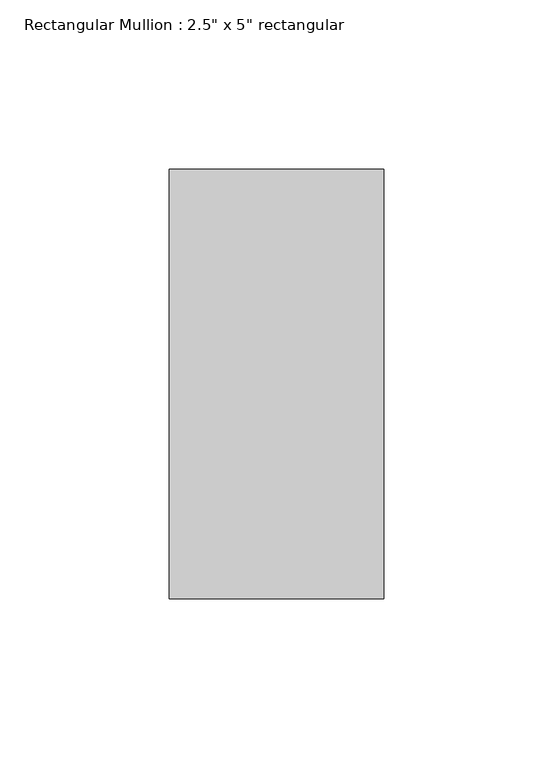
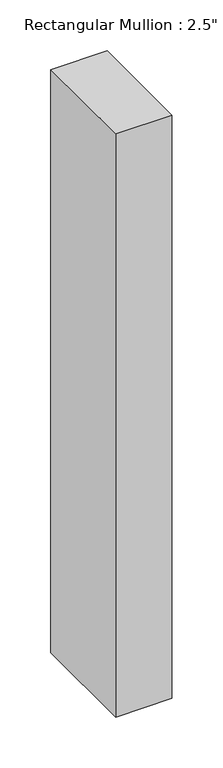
"""IFC4 building model written with IfcOpenShell, lengths in millimetres: member geometry."""

from ifc_helpers import new_model, si_unit, frame, origin, place, context, project, spatial, polyline, outline, extrude, source, transform, mapped, element, save


def member_c7c5a8a0(model_context):
    return source(origin(), model_context, "Body", "SweptSolid", [
        extrude(outline(polyline([(31.75, 63.5), (31.75, -63.5), (-31.75, -63.5), (-31.75, 63.5), (31.75, 63.5)])), frame((0.0, 0.0, -698.5), z_axis=(0.0, 0.0, 1.0), x_axis=(1.0, 0.0, 0.0)), (0.0, 0.0, 1.0), 698.5),
    ])


if __name__ == "__main__":
    model = new_model("IFC4")
    model_context = context("Model", 3, world=origin())
    ifc_project = project(units=[si_unit("LENGTHUNIT", "METRE", prefix="MILLI")], contexts=[model_context])
    site = spatial("IfcSite", under=ifc_project)
    building = spatial("IfcBuilding", under=site)
    placement = place(None, origin())
    member_shape = member_c7c5a8a0(model_context)
    element("IfcMember", 1, ObjectType="Rectangular Mullion : 2.5\" x 5\" rectangular", at=placement, inside=building, context=model_context, shape_type="MappedRepresentation", body=[
        mapped(member_shape, transform((0.0, 0.0, 0.0), x_axis=(1.0, 0.0, 0.0), y_axis=(0.0, 1.0, 0.0), z_axis=(0.0, 0.0, 1.0))),
    ])
    save(model, "model.ifc")
